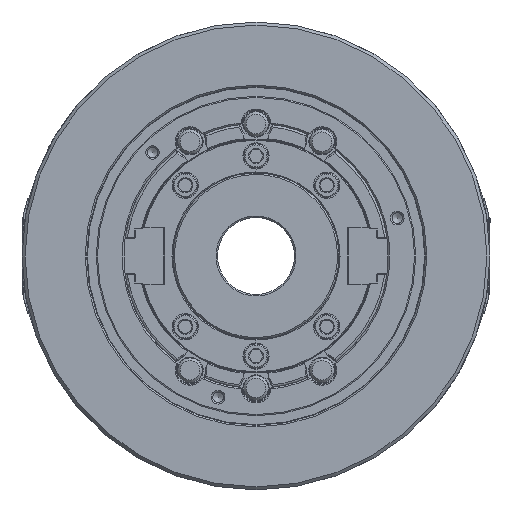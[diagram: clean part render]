
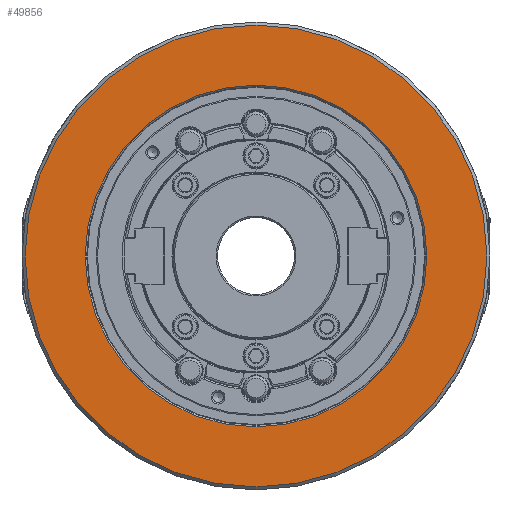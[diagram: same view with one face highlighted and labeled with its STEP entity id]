
A CAD part, left-side view. The second image highlights one B-rep face of the part: STEP entity #49856.
In plain terms, the highlighted planar face has unit normal (-1, 0, 0).
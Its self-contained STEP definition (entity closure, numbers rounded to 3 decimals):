
#3509 = DIRECTION ( 'NONE',  ( -1., 0., 0. ) ) ;
#9096 = ORIENTED_EDGE ( 'NONE', *, *, #82649, .F. ) ;
#9443 = AXIS2_PLACEMENT_3D ( 'NONE', #40866, #32729, #24665 ) ;
#24665 = DIRECTION ( 'NONE',  ( 0., 0., -1. ) ) ;
#25806 = VERTEX_POINT ( 'NONE', #85044 ) ;
#32729 = DIRECTION ( 'NONE',  ( 1., 0., 0. ) ) ;
#40866 = CARTESIAN_POINT ( 'NONE',  ( -110., 150., 0. ) ) ;
#42738 = EDGE_LOOP ( 'NONE', ( #9096 ) ) ;
#42962 = FACE_BOUND ( 'NONE', #42738, .T. ) ;
#43026 = CARTESIAN_POINT ( 'NONE',  ( -110., 0., 0. ) ) ;
#45745 = EDGE_CURVE ( 'NONE', #25806, #25806, #53145, .T. ) ;
#49856 = ADVANCED_FACE ( 'NONE', ( #42962, #100533 ), #81760, .F. ) ;
#51099 = DIRECTION ( 'NONE',  ( 0., 0., 1. ) ) ;
#53145 = CIRCLE ( 'NONE', #106444, 150. ) ;
#56467 = ORIENTED_EDGE ( 'NONE', *, *, #45745, .T. ) ;
#59217 = DIRECTION ( 'NONE',  ( -1., 0., 0. ) ) ;
#63464 = CIRCLE ( 'NONE', #77115, 111. ) ;
#65624 = CARTESIAN_POINT ( 'NONE',  ( -110., 0., 111. ) ) ;
#66772 = EDGE_LOOP ( 'NONE', ( #56467 ) ) ;
#77115 = AXIS2_PLACEMENT_3D ( 'NONE', #43026, #59217, #51099 ) ;
#77867 = DIRECTION ( 'NONE',  ( 0., 0., 1. ) ) ;
#81760 = PLANE ( 'NONE',  #9443 ) ;
#82649 = EDGE_CURVE ( 'NONE', #90871, #90871, #63464, .T. ) ;
#85044 = CARTESIAN_POINT ( 'NONE',  ( -110., 0., 150. ) ) ;
#85926 = CARTESIAN_POINT ( 'NONE',  ( -110., 0., 0. ) ) ;
#90871 = VERTEX_POINT ( 'NONE', #65624 ) ;
#100533 = FACE_OUTER_BOUND ( 'NONE', #66772, .T. ) ;
#106444 = AXIS2_PLACEMENT_3D ( 'NONE', #85926, #3509, #77867 ) ;
